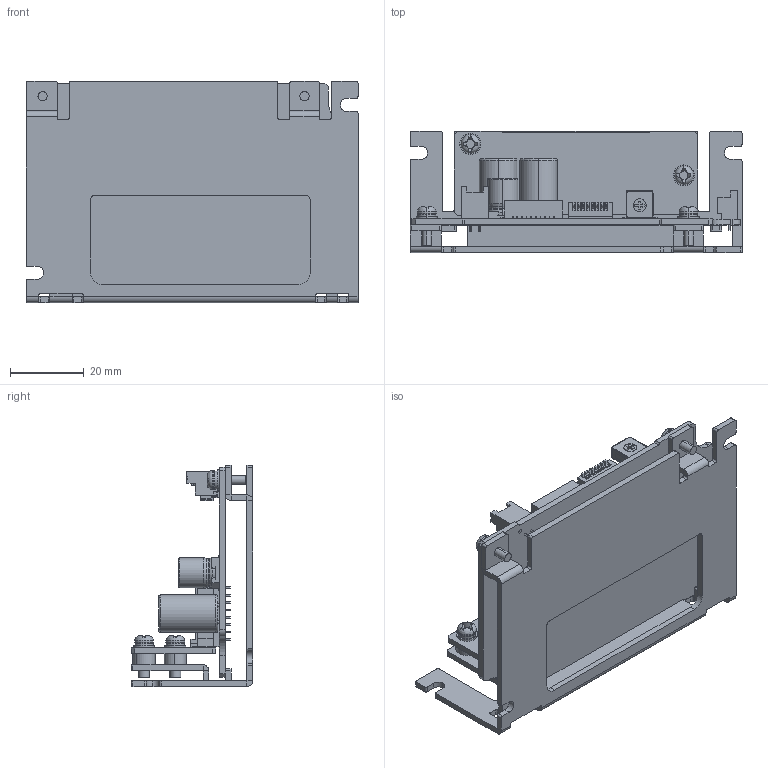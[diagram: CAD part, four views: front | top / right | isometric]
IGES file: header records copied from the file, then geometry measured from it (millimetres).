
Start section: SolidWorks IGES file using analytic representation for surfaces
Bounding box: 90 x 33 x 60 mm (x, y, z)
Volume: 25670.9 mm3; surface area: 33276.7 mm2
Topology: 17 solids, 17 shells, 1572 faces, 4170 edges, 2683 vertices
Faces by surface type: plane 1310, revolution 262
